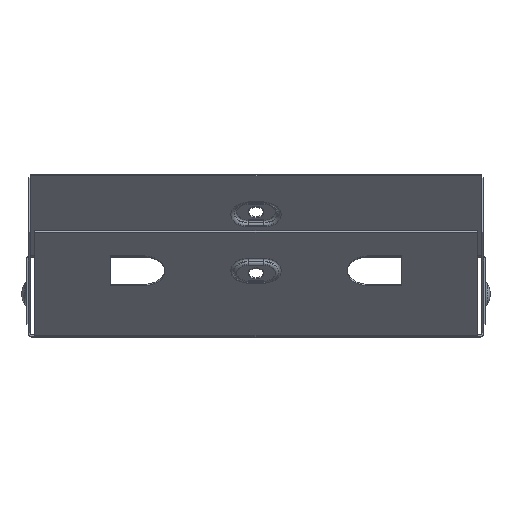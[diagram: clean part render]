
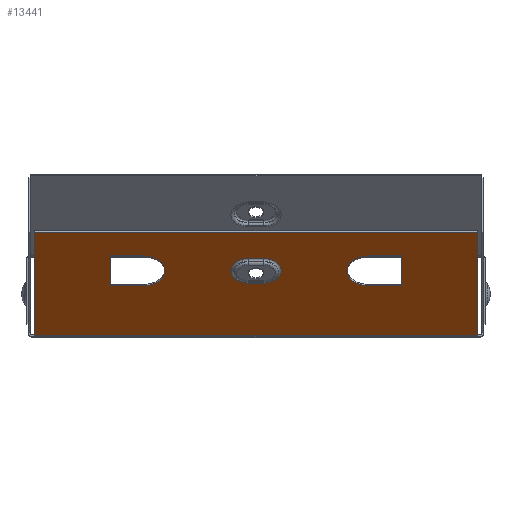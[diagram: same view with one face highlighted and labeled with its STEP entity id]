
A CAD part, top view. The second image highlights one B-rep face of the part: STEP entity #13441.
In plain terms, the highlighted planar face has unit normal (0, -0.707, 0.707).
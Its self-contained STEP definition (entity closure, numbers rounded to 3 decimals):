
#119 = VECTOR ( 'NONE', #9434, 1000. ) ;
#246 = DIRECTION ( 'NONE',  ( -1., 0., 0. ) ) ;
#348 = CARTESIAN_POINT ( 'NONE',  ( -97.299, 10.021, 123.171 ) ) ;
#356 = VECTOR ( 'NONE', #11541, 1000. ) ;
#551 = DIRECTION ( 'NONE',  ( 0., 0.707, -0.707 ) ) ;
#707 = VECTOR ( 'NONE', #9368, 1000. ) ;
#735 = CARTESIAN_POINT ( 'NONE',  ( 49., -6.95, 106.2 ) ) ;
#775 = DIRECTION ( 'NONE',  ( -1., 0., 0. ) ) ;
#843 = DIRECTION ( 'NONE',  ( 0., -0.707, -0.707 ) ) ;
#845 = VERTEX_POINT ( 'NONE', #4300 ) ;
#873 = FACE_BOUND ( 'NONE', #6880, .T. ) ;
#885 = VECTOR ( 'NONE', #775, 1000. ) ;
#1158 = LINE ( 'NONE', #2420, #13478 ) ;
#1200 = FACE_BOUND ( 'NONE', #7833, .T. ) ;
#1230 = CARTESIAN_POINT ( 'NONE',  ( 49., -13.314, 99.836 ) ) ;
#1231 = EDGE_CURVE ( 'NONE', #6640, #13175, #11862, .T. ) ;
#1278 = VERTEX_POINT ( 'NONE', #6712 ) ;
#1447 = AXIS2_PLACEMENT_3D ( 'NONE', #3481, #3636, #10062 ) ;
#1627 = DIRECTION ( 'NONE',  ( 0., 0.707, 0.707 ) ) ;
#1798 = CARTESIAN_POINT ( 'NONE',  ( -49., -0.586, 112.564 ) ) ;
#1820 = LINE ( 'NONE', #12151, #12945 ) ;
#1880 = CARTESIAN_POINT ( 'NONE',  ( 64., -0.586, 112.564 ) ) ;
#1943 = CIRCLE ( 'NONE', #1447, 9. ) ;
#1948 = EDGE_CURVE ( 'NONE', #7809, #7948, #10649, .T. ) ;
#2008 = ORIENTED_EDGE ( 'NONE', *, *, #2452, .T. ) ;
#2094 = VECTOR ( 'NONE', #246, 1000. ) ;
#2420 = CARTESIAN_POINT ( 'NONE',  ( 98.2, -35.273, 77.877 ) ) ;
#2427 = CARTESIAN_POINT ( 'NONE',  ( 3.5, -1.577, 111.573 ) ) ;
#2452 = EDGE_CURVE ( 'NONE', #8828, #9573, #6578, .T. ) ;
#2544 = LINE ( 'NONE', #10607, #707 ) ;
#2643 = CIRCLE ( 'NONE', #7619, 7.598 ) ;
#2989 = DIRECTION ( 'NONE',  ( 0., 0.707, 0.707 ) ) ;
#3051 = ORIENTED_EDGE ( 'NONE', *, *, #4782, .T. ) ;
#3127 = ORIENTED_EDGE ( 'NONE', *, *, #9708, .T. ) ;
#3308 = ORIENTED_EDGE ( 'NONE', *, *, #5915, .T. ) ;
#3398 = CARTESIAN_POINT ( 'NONE',  ( 49., -13.314, 99.836 ) ) ;
#3414 = LINE ( 'NONE', #1230, #2094 ) ;
#3434 = DIRECTION ( 'NONE',  ( -1., 0., 0. ) ) ;
#3481 = CARTESIAN_POINT ( 'NONE',  ( -49., -6.95, 106.2 ) ) ;
#3636 = DIRECTION ( 'NONE',  ( 0., 0.707, -0.707 ) ) ;
#3751 = ORIENTED_EDGE ( 'NONE', *, *, #4644, .T. ) ;
#3775 = CARTESIAN_POINT ( 'NONE',  ( 3.5, -6.95, 106.2 ) ) ;
#3803 = LINE ( 'NONE', #10861, #13772 ) ;
#3864 = DIRECTION ( 'NONE',  ( 0., 0.707, 0.707 ) ) ;
#4079 = LINE ( 'NONE', #7038, #885 ) ;
#4110 = DIRECTION ( 'NONE',  ( 1., 0., 0. ) ) ;
#4182 = CARTESIAN_POINT ( 'NONE',  ( -49., -13.314, 99.836 ) ) ;
#4217 = EDGE_LOOP ( 'NONE', ( #12571, #3127, #12719, #11624 ) ) ;
#4300 = CARTESIAN_POINT ( 'NONE',  ( 3.5, -12.323, 100.827 ) ) ;
#4304 = CARTESIAN_POINT ( 'NONE',  ( -3.5, -12.323, 100.827 ) ) ;
#4644 = EDGE_CURVE ( 'NONE', #845, #11673, #4079, .T. ) ;
#4782 = EDGE_CURVE ( 'NONE', #5837, #7809, #3803, .T. ) ;
#4959 = CARTESIAN_POINT ( 'NONE',  ( 98.2, -35.8, 77.35 ) ) ;
#4994 = EDGE_CURVE ( 'NONE', #11673, #6640, #12602, .T. ) ;
#5127 = EDGE_CURVE ( 'NONE', #7392, #10291, #1943, .T. ) ;
#5191 = VECTOR ( 'NONE', #13806, 1000. ) ;
#5243 = VECTOR ( 'NONE', #4110, 1000. ) ;
#5547 = ORIENTED_EDGE ( 'NONE', *, *, #4994, .T. ) ;
#5594 = ORIENTED_EDGE ( 'NONE', *, *, #1948, .T. ) ;
#5612 = CARTESIAN_POINT ( 'NONE',  ( -64., -13.314, 99.836 ) ) ;
#5691 = DIRECTION ( 'NONE',  ( -1., 0., 0. ) ) ;
#5710 = LINE ( 'NONE', #4182, #356 ) ;
#5837 = VERTEX_POINT ( 'NONE', #13030 ) ;
#5905 = PLANE ( 'NONE',  #11824 ) ;
#5915 = EDGE_CURVE ( 'NONE', #12862, #10611, #7255, .T. ) ;
#6060 = DIRECTION ( 'NONE',  ( 0., 0.707, -0.707 ) ) ;
#6094 = CARTESIAN_POINT ( 'NONE',  ( -3.5, -1.577, 111.573 ) ) ;
#6426 = EDGE_LOOP ( 'NONE', ( #5594, #8546, #12927, #3051 ) ) ;
#6437 = VERTEX_POINT ( 'NONE', #5612 ) ;
#6578 = CIRCLE ( 'NONE', #7337, 9. ) ;
#6619 = EDGE_CURVE ( 'NONE', #11618, #7948, #1158, .T. ) ;
#6640 = VERTEX_POINT ( 'NONE', #6094 ) ;
#6654 = CARTESIAN_POINT ( 'NONE',  ( -49., -13.314, 99.836 ) ) ;
#6712 = CARTESIAN_POINT ( 'NONE',  ( -64., -0.586, 112.564 ) ) ;
#6880 = EDGE_LOOP ( 'NONE', ( #10215, #2008, #9534, #3308 ) ) ;
#7038 = CARTESIAN_POINT ( 'NONE',  ( 3.5, -12.323, 100.827 ) ) ;
#7215 = CARTESIAN_POINT ( 'NONE',  ( 64., -0.586, 112.564 ) ) ;
#7219 = VECTOR ( 'NONE', #3864, 1000. ) ;
#7255 = LINE ( 'NONE', #7215, #5191 ) ;
#7263 = EDGE_CURVE ( 'NONE', #6437, #1278, #9563, .T. ) ;
#7337 = AXIS2_PLACEMENT_3D ( 'NONE', #735, #8262, #12839 ) ;
#7392 = VERTEX_POINT ( 'NONE', #1798 ) ;
#7619 = AXIS2_PLACEMENT_3D ( 'NONE', #3775, #551, #1627 ) ;
#7809 = VERTEX_POINT ( 'NONE', #348 ) ;
#7833 = EDGE_LOOP ( 'NONE', ( #13239, #13367, #3751, #5547 ) ) ;
#7948 = VERTEX_POINT ( 'NONE', #12612 ) ;
#8118 = VECTOR ( 'NONE', #843, 1000. ) ;
#8262 = DIRECTION ( 'NONE',  ( 0., 0.707, -0.707 ) ) ;
#8373 = LINE ( 'NONE', #11335, #119 ) ;
#8388 = EDGE_CURVE ( 'NONE', #10611, #8828, #3414, .T. ) ;
#8445 = CARTESIAN_POINT ( 'NONE',  ( 64., -13.314, 99.836 ) ) ;
#8546 = ORIENTED_EDGE ( 'NONE', *, *, #6619, .F. ) ;
#8589 = CARTESIAN_POINT ( 'NONE',  ( 97.299, -35.273, 77.877 ) ) ;
#8760 = FACE_OUTER_BOUND ( 'NONE', #6426, .T. ) ;
#8828 = VERTEX_POINT ( 'NONE', #3398 ) ;
#8886 = EDGE_CURVE ( 'NONE', #11618, #5837, #1820, .T. ) ;
#9368 = DIRECTION ( 'NONE',  ( 1., 0., 0. ) ) ;
#9395 = AXIS2_PLACEMENT_3D ( 'NONE', #12748, #11474, #2989 ) ;
#9434 = DIRECTION ( 'NONE',  ( 1., 0., 0. ) ) ;
#9456 = FACE_BOUND ( 'NONE', #4217, .T. ) ;
#9534 = ORIENTED_EDGE ( 'NONE', *, *, #13558, .T. ) ;
#9563 = LINE ( 'NONE', #10342, #7219 ) ;
#9573 = VERTEX_POINT ( 'NONE', #13359 ) ;
#9686 = EDGE_CURVE ( 'NONE', #13175, #845, #2643, .T. ) ;
#9708 = EDGE_CURVE ( 'NONE', #1278, #7392, #8373, .T. ) ;
#10030 = DIRECTION ( 'NONE',  ( 0., 0.707, 0.707 ) ) ;
#10062 = DIRECTION ( 'NONE',  ( 0., -0.707, -0.707 ) ) ;
#10215 = ORIENTED_EDGE ( 'NONE', *, *, #8388, .T. ) ;
#10291 = VERTEX_POINT ( 'NONE', #6654 ) ;
#10342 = CARTESIAN_POINT ( 'NONE',  ( -64., -0.586, 112.564 ) ) ;
#10371 = DIRECTION ( 'NONE',  ( 0., 0.707, 0.707 ) ) ;
#10607 = CARTESIAN_POINT ( 'NONE',  ( 49., -0.586, 112.564 ) ) ;
#10611 = VERTEX_POINT ( 'NONE', #8445 ) ;
#10637 = CARTESIAN_POINT ( 'NONE',  ( -97.299, -35.8, 77.35 ) ) ;
#10649 = LINE ( 'NONE', #10637, #8118 ) ;
#10861 = CARTESIAN_POINT ( 'NONE',  ( 98.2, 10.021, 123.171 ) ) ;
#11335 = CARTESIAN_POINT ( 'NONE',  ( -49., -0.586, 112.564 ) ) ;
#11474 = DIRECTION ( 'NONE',  ( 0., 0.707, -0.707 ) ) ;
#11541 = DIRECTION ( 'NONE',  ( -1., 0., 0. ) ) ;
#11618 = VERTEX_POINT ( 'NONE', #8589 ) ;
#11623 = CARTESIAN_POINT ( 'NONE',  ( 3.5, -1.577, 111.573 ) ) ;
#11624 = ORIENTED_EDGE ( 'NONE', *, *, #13580, .T. ) ;
#11673 = VERTEX_POINT ( 'NONE', #4304 ) ;
#11824 = AXIS2_PLACEMENT_3D ( 'NONE', #4959, #6060, #10371 ) ;
#11862 = LINE ( 'NONE', #11623, #5243 ) ;
#12151 = CARTESIAN_POINT ( 'NONE',  ( 97.299, -36.015, 77.135 ) ) ;
#12571 = ORIENTED_EDGE ( 'NONE', *, *, #7263, .T. ) ;
#12602 = CIRCLE ( 'NONE', #9395, 7.598 ) ;
#12612 = CARTESIAN_POINT ( 'NONE',  ( -97.299, -35.273, 77.877 ) ) ;
#12719 = ORIENTED_EDGE ( 'NONE', *, *, #5127, .T. ) ;
#12748 = CARTESIAN_POINT ( 'NONE',  ( -3.5, -6.95, 106.2 ) ) ;
#12839 = DIRECTION ( 'NONE',  ( 0., 0.707, 0.707 ) ) ;
#12862 = VERTEX_POINT ( 'NONE', #1880 ) ;
#12927 = ORIENTED_EDGE ( 'NONE', *, *, #8886, .T. ) ;
#12945 = VECTOR ( 'NONE', #10030, 1000. ) ;
#13030 = CARTESIAN_POINT ( 'NONE',  ( 97.299, 10.021, 123.171 ) ) ;
#13175 = VERTEX_POINT ( 'NONE', #2427 ) ;
#13239 = ORIENTED_EDGE ( 'NONE', *, *, #1231, .T. ) ;
#13359 = CARTESIAN_POINT ( 'NONE',  ( 49., -0.586, 112.564 ) ) ;
#13367 = ORIENTED_EDGE ( 'NONE', *, *, #9686, .T. ) ;
#13441 = ADVANCED_FACE ( 'NONE', ( #873, #9456, #1200, #8760 ), #5905, .F. ) ;
#13478 = VECTOR ( 'NONE', #5691, 1000. ) ;
#13558 = EDGE_CURVE ( 'NONE', #9573, #12862, #2544, .T. ) ;
#13580 = EDGE_CURVE ( 'NONE', #10291, #6437, #5710, .T. ) ;
#13772 = VECTOR ( 'NONE', #3434, 1000. ) ;
#13806 = DIRECTION ( 'NONE',  ( 0., -0.707, -0.707 ) ) ;
